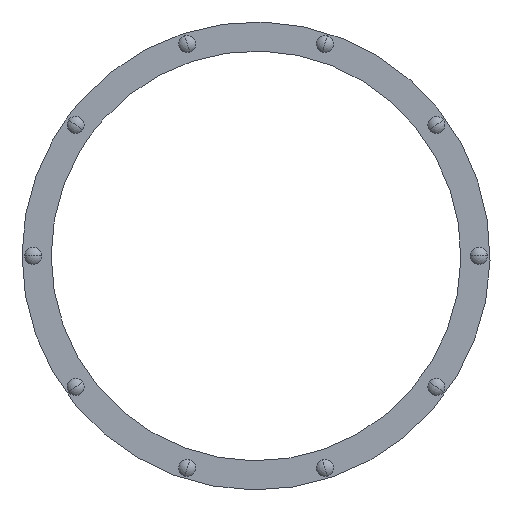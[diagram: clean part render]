
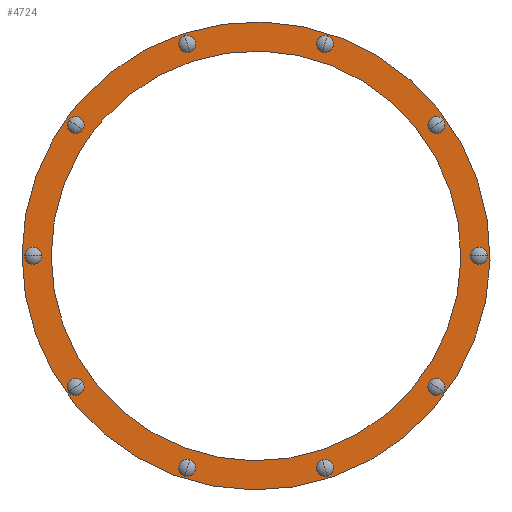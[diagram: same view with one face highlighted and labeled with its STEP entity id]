
A CAD part, front view. The second image highlights one B-rep face of the part: STEP entity #4724.
In plain terms, the highlighted planar face has unit normal (0, -1, 0).
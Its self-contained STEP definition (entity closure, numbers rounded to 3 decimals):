
#1533=CARTESIAN_POINT('',(-269.807,-92.,196.026));
#1534=DIRECTION('',(0.,1.,0.));
#1535=DIRECTION('',(-0.809,0.,0.588));
#1536=AXIS2_PLACEMENT_3D('',#1533,#1534,#1535);
#1538=CARTESIAN_POINT('',(-269.807,-92.,196.026));
#1539=DIRECTION('',(0.,1.,0.));
#1540=DIRECTION('',(0.809,0.,-0.588));
#1541=AXIS2_PLACEMENT_3D('',#1538,#1539,#1540);
#1543=CARTESIAN_POINT('',(-103.057,-92.,317.177));
#1544=DIRECTION('',(0.,1.,0.));
#1545=DIRECTION('',(-0.309,0.,0.951));
#1546=AXIS2_PLACEMENT_3D('',#1543,#1544,#1545);
#1548=CARTESIAN_POINT('',(-103.057,-92.,317.177));
#1549=DIRECTION('',(0.,1.,0.));
#1550=DIRECTION('',(0.309,0.,-0.951));
#1551=AXIS2_PLACEMENT_3D('',#1548,#1549,#1550);
#1553=CARTESIAN_POINT('',(103.057,-92.,317.177));
#1554=DIRECTION('',(0.,1.,0.));
#1555=DIRECTION('',(0.309,0.,0.951));
#1556=AXIS2_PLACEMENT_3D('',#1553,#1554,#1555);
#1558=CARTESIAN_POINT('',(103.057,-92.,317.177));
#1559=DIRECTION('',(0.,1.,0.));
#1560=DIRECTION('',(-0.309,0.,-0.951));
#1561=AXIS2_PLACEMENT_3D('',#1558,#1559,#1560);
#1563=CARTESIAN_POINT('',(269.807,-92.,196.026));
#1564=DIRECTION('',(0.,1.,0.));
#1565=DIRECTION('',(0.809,0.,0.588));
#1566=AXIS2_PLACEMENT_3D('',#1563,#1564,#1565);
#1568=CARTESIAN_POINT('',(269.807,-92.,196.026));
#1569=DIRECTION('',(0.,1.,0.));
#1570=DIRECTION('',(-0.809,0.,-0.588));
#1571=AXIS2_PLACEMENT_3D('',#1568,#1569,#1570);
#1573=CARTESIAN_POINT('',(333.5,-92.,0.));
#1574=DIRECTION('',(0.,1.,0.));
#1575=DIRECTION('',(1.,0.,0.));
#1576=AXIS2_PLACEMENT_3D('',#1573,#1574,#1575);
#1578=CARTESIAN_POINT('',(333.5,-92.,0.));
#1579=DIRECTION('',(0.,1.,0.));
#1580=DIRECTION('',(-1.,0.,0.));
#1581=AXIS2_PLACEMENT_3D('',#1578,#1579,#1580);
#1583=CARTESIAN_POINT('',(269.807,-92.,-196.026));
#1584=DIRECTION('',(0.,1.,0.));
#1585=DIRECTION('',(0.809,0.,-0.588));
#1586=AXIS2_PLACEMENT_3D('',#1583,#1584,#1585);
#1588=CARTESIAN_POINT('',(269.807,-92.,-196.026));
#1589=DIRECTION('',(0.,1.,0.));
#1590=DIRECTION('',(-0.809,0.,0.588));
#1591=AXIS2_PLACEMENT_3D('',#1588,#1589,#1590);
#1593=CARTESIAN_POINT('',(103.057,-92.,-317.177));
#1594=DIRECTION('',(0.,1.,0.));
#1595=DIRECTION('',(0.309,0.,-0.951));
#1596=AXIS2_PLACEMENT_3D('',#1593,#1594,#1595);
#1598=CARTESIAN_POINT('',(103.057,-92.,-317.177));
#1599=DIRECTION('',(0.,1.,0.));
#1600=DIRECTION('',(-0.309,0.,0.951));
#1601=AXIS2_PLACEMENT_3D('',#1598,#1599,#1600);
#1603=CARTESIAN_POINT('',(-103.057,-92.,-317.177));
#1604=DIRECTION('',(0.,1.,0.));
#1605=DIRECTION('',(-0.309,0.,-0.951));
#1606=AXIS2_PLACEMENT_3D('',#1603,#1604,#1605);
#1608=CARTESIAN_POINT('',(-103.057,-92.,-317.177));
#1609=DIRECTION('',(0.,1.,0.));
#1610=DIRECTION('',(0.309,0.,0.951));
#1611=AXIS2_PLACEMENT_3D('',#1608,#1609,#1610);
#1613=CARTESIAN_POINT('',(-269.807,-92.,-196.026));
#1614=DIRECTION('',(0.,1.,0.));
#1615=DIRECTION('',(-0.809,0.,-0.588));
#1616=AXIS2_PLACEMENT_3D('',#1613,#1614,#1615);
#1618=CARTESIAN_POINT('',(-269.807,-92.,-196.026));
#1619=DIRECTION('',(0.,1.,0.));
#1620=DIRECTION('',(0.809,0.,0.588));
#1621=AXIS2_PLACEMENT_3D('',#1618,#1619,#1620);
#1623=CARTESIAN_POINT('',(-333.5,-92.,0.));
#1624=DIRECTION('',(0.,1.,0.));
#1625=DIRECTION('',(-1.,0.,0.));
#1626=AXIS2_PLACEMENT_3D('',#1623,#1624,#1625);
#1628=CARTESIAN_POINT('',(-333.5,-92.,0.));
#1629=DIRECTION('',(0.,1.,0.));
#1630=DIRECTION('',(1.,0.,0.));
#1631=AXIS2_PLACEMENT_3D('',#1628,#1629,#1630);
#1633=CARTESIAN_POINT('',(0.,-92.,0.));
#1634=DIRECTION('',(0.,1.,0.));
#1635=DIRECTION('',(-0.743,0.,0.669));
#1636=AXIS2_PLACEMENT_3D('',#1633,#1634,#1635);
#1638=CARTESIAN_POINT('',(0.,-92.,0.));
#1639=DIRECTION('',(0.,1.,0.));
#1640=DIRECTION('',(-0.866,0.,0.5));
#1641=AXIS2_PLACEMENT_3D('',#1638,#1639,#1640);
#1651=CARTESIAN_POINT('',(0.,-92.,0.));
#1652=DIRECTION('',(0.,1.,0.));
#1653=DIRECTION('',(-0.743,0.,0.669));
#1654=AXIS2_PLACEMENT_3D('',#1651,#1652,#1653);
#1656=CARTESIAN_POINT('',(0.,-92.,0.));
#1657=DIRECTION('',(0.,1.,0.));
#1658=DIRECTION('',(-0.866,0.,0.5));
#1659=AXIS2_PLACEMENT_3D('',#1656,#1657,#1658);
#3400=CARTESIAN_POINT('',(-346.25,-92.,0.));
#3401=CARTESIAN_POINT('',(-320.75,-92.,0.));
#3402=VERTEX_POINT('',#3400);
#3403=VERTEX_POINT('',#3401);
#3458=CARTESIAN_POINT('',(-280.122,-92.,-203.521));
#3459=CARTESIAN_POINT('',(-259.492,-92.,-188.532));
#3460=VERTEX_POINT('',#3458);
#3461=VERTEX_POINT('',#3459);
#3516=CARTESIAN_POINT('',(-106.997,-92.,-329.303));
#3517=CARTESIAN_POINT('',(-99.117,-92.,-305.051));
#3518=VERTEX_POINT('',#3516);
#3519=VERTEX_POINT('',#3517);
#3574=CARTESIAN_POINT('',(106.997,-92.,-329.303));
#3575=CARTESIAN_POINT('',(99.117,-92.,-305.051));
#3576=VERTEX_POINT('',#3574);
#3577=VERTEX_POINT('',#3575);
#3632=CARTESIAN_POINT('',(280.122,-92.,-203.521));
#3633=CARTESIAN_POINT('',(259.492,-92.,-188.532));
#3634=VERTEX_POINT('',#3632);
#3635=VERTEX_POINT('',#3633);
#3690=CARTESIAN_POINT('',(346.25,-92.,0.));
#3691=CARTESIAN_POINT('',(320.75,-92.,0.));
#3692=VERTEX_POINT('',#3690);
#3693=VERTEX_POINT('',#3691);
#3748=CARTESIAN_POINT('',(280.122,-92.,203.521));
#3749=CARTESIAN_POINT('',(259.492,-92.,188.532));
#3750=VERTEX_POINT('',#3748);
#3751=VERTEX_POINT('',#3749);
#3806=CARTESIAN_POINT('',(106.997,-92.,329.303));
#3807=CARTESIAN_POINT('',(99.117,-92.,305.051));
#3808=VERTEX_POINT('',#3806);
#3809=VERTEX_POINT('',#3807);
#3864=CARTESIAN_POINT('',(-106.997,-92.,329.303));
#3865=CARTESIAN_POINT('',(-99.117,-92.,305.051));
#3866=VERTEX_POINT('',#3864);
#3867=VERTEX_POINT('',#3865);
#3922=CARTESIAN_POINT('',(-280.122,-92.,203.521));
#3923=CARTESIAN_POINT('',(-259.492,-92.,188.532));
#3924=VERTEX_POINT('',#3922);
#3925=VERTEX_POINT('',#3923);
#3938=CARTESIAN_POINT('',(-303.195,-92.,175.05));
#3939=VERTEX_POINT('',#3938);
#3940=CARTESIAN_POINT('',(-265.437,-92.,153.25));
#3942=VERTEX_POINT('',#3940);
#3966=CARTESIAN_POINT('',(-260.175,-92.,234.263));
#3967=VERTEX_POINT('',#3966);
#3968=CARTESIAN_POINT('',(-227.774,-92.,205.089));
#3970=VERTEX_POINT('',#3968);
#4649=CARTESIAN_POINT('',(0.,-92.,0.));
#4650=DIRECTION('',(0.,1.,0.));
#4651=DIRECTION('',(0.866,0.,0.5));
#4652=AXIS2_PLACEMENT_3D('',#4649,#4650,#4651);
#4653=PLANE('',#4652);
#4654=ORIENTED_EDGE('',*,*,#4628,.T.);
#4655=ORIENTED_EDGE('',*,*,#4644,.T.);
#4656=EDGE_LOOP('',(#4654,#4655));
#4657=FACE_OUTER_BOUND('',#4656,.F.);
#4659=ORIENTED_EDGE('',*,*,#4658,.F.);
#4661=ORIENTED_EDGE('',*,*,#4660,.F.);
#4662=EDGE_LOOP('',(#4659,#4661));
#4663=FACE_BOUND('',#4662,.F.);
#4665=ORIENTED_EDGE('',*,*,#4664,.F.);
#4667=ORIENTED_EDGE('',*,*,#4666,.F.);
#4668=EDGE_LOOP('',(#4665,#4667));
#4669=FACE_BOUND('',#4668,.F.);
#4671=ORIENTED_EDGE('',*,*,#4670,.F.);
#4673=ORIENTED_EDGE('',*,*,#4672,.F.);
#4674=EDGE_LOOP('',(#4671,#4673));
#4675=FACE_BOUND('',#4674,.F.);
#4677=ORIENTED_EDGE('',*,*,#4676,.F.);
#4679=ORIENTED_EDGE('',*,*,#4678,.F.);
#4680=EDGE_LOOP('',(#4677,#4679));
#4681=FACE_BOUND('',#4680,.F.);
#4683=ORIENTED_EDGE('',*,*,#4682,.F.);
#4685=ORIENTED_EDGE('',*,*,#4684,.F.);
#4686=EDGE_LOOP('',(#4683,#4685));
#4687=FACE_BOUND('',#4686,.F.);
#4689=ORIENTED_EDGE('',*,*,#4688,.F.);
#4691=ORIENTED_EDGE('',*,*,#4690,.F.);
#4692=EDGE_LOOP('',(#4689,#4691));
#4693=FACE_BOUND('',#4692,.F.);
#4695=ORIENTED_EDGE('',*,*,#4694,.F.);
#4697=ORIENTED_EDGE('',*,*,#4696,.F.);
#4698=EDGE_LOOP('',(#4695,#4697));
#4699=FACE_BOUND('',#4698,.F.);
#4701=ORIENTED_EDGE('',*,*,#4700,.F.);
#4703=ORIENTED_EDGE('',*,*,#4702,.F.);
#4704=EDGE_LOOP('',(#4701,#4703));
#4705=FACE_BOUND('',#4704,.F.);
#4707=ORIENTED_EDGE('',*,*,#4706,.F.);
#4709=ORIENTED_EDGE('',*,*,#4708,.F.);
#4710=EDGE_LOOP('',(#4707,#4709));
#4711=FACE_BOUND('',#4710,.F.);
#4713=ORIENTED_EDGE('',*,*,#4712,.F.);
#4715=ORIENTED_EDGE('',*,*,#4714,.F.);
#4716=EDGE_LOOP('',(#4713,#4715));
#4717=FACE_BOUND('',#4716,.F.);
#4719=ORIENTED_EDGE('',*,*,#4718,.F.);
#4721=ORIENTED_EDGE('',*,*,#4720,.F.);
#4722=EDGE_LOOP('',(#4719,#4721));
#4723=FACE_BOUND('',#4722,.F.);
#4724=ADVANCED_FACE('',(#4657,#4663,#4669,#4675,#4681,#4687,#4693,#4699,#4705,
#4711,#4717,#4723),#4653,.F.);
#1537=CIRCLE('',#1536,12.75);
#1542=CIRCLE('',#1541,12.75);
#1547=CIRCLE('',#1546,12.75);
#1552=CIRCLE('',#1551,12.75);
#1557=CIRCLE('',#1556,12.75);
#1562=CIRCLE('',#1561,12.75);
#1567=CIRCLE('',#1566,12.75);
#1572=CIRCLE('',#1571,12.75);
#1577=CIRCLE('',#1576,12.75);
#1582=CIRCLE('',#1581,12.75);
#1587=CIRCLE('',#1586,12.75);
#1592=CIRCLE('',#1591,12.75);
#1597=CIRCLE('',#1596,12.75);
#1602=CIRCLE('',#1601,12.75);
#1607=CIRCLE('',#1606,12.75);
#1612=CIRCLE('',#1611,12.75);
#1617=CIRCLE('',#1616,12.75);
#1622=CIRCLE('',#1621,12.75);
#1627=CIRCLE('',#1626,12.75);
#1632=CIRCLE('',#1631,12.75);
#1637=CIRCLE('',#1636,350.1);
#1642=CIRCLE('',#1641,350.1);
#1655=CIRCLE('',#1654,306.5);
#1660=CIRCLE('',#1659,306.5);
#4628=EDGE_CURVE('',#3967,#3939,#1637,.T.);
#4644=EDGE_CURVE('',#3939,#3967,#1642,.T.);
#4658=EDGE_CURVE('',#3924,#3925,#1537,.T.);
#4660=EDGE_CURVE('',#3925,#3924,#1542,.T.);
#4664=EDGE_CURVE('',#3866,#3867,#1547,.T.);
#4666=EDGE_CURVE('',#3867,#3866,#1552,.T.);
#4670=EDGE_CURVE('',#3808,#3809,#1557,.T.);
#4672=EDGE_CURVE('',#3809,#3808,#1562,.T.);
#4676=EDGE_CURVE('',#3750,#3751,#1567,.T.);
#4678=EDGE_CURVE('',#3751,#3750,#1572,.T.);
#4682=EDGE_CURVE('',#3692,#3693,#1577,.T.);
#4684=EDGE_CURVE('',#3693,#3692,#1582,.T.);
#4688=EDGE_CURVE('',#3634,#3635,#1587,.T.);
#4690=EDGE_CURVE('',#3635,#3634,#1592,.T.);
#4694=EDGE_CURVE('',#3576,#3577,#1597,.T.);
#4696=EDGE_CURVE('',#3577,#3576,#1602,.T.);
#4700=EDGE_CURVE('',#3518,#3519,#1607,.T.);
#4702=EDGE_CURVE('',#3519,#3518,#1612,.T.);
#4706=EDGE_CURVE('',#3460,#3461,#1617,.T.);
#4708=EDGE_CURVE('',#3461,#3460,#1622,.T.);
#4712=EDGE_CURVE('',#3402,#3403,#1627,.T.);
#4714=EDGE_CURVE('',#3403,#3402,#1632,.T.);
#4718=EDGE_CURVE('',#3970,#3942,#1655,.T.);
#4720=EDGE_CURVE('',#3942,#3970,#1660,.T.);
